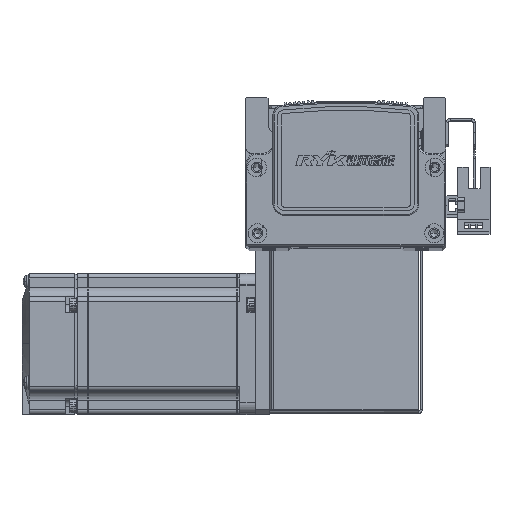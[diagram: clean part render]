
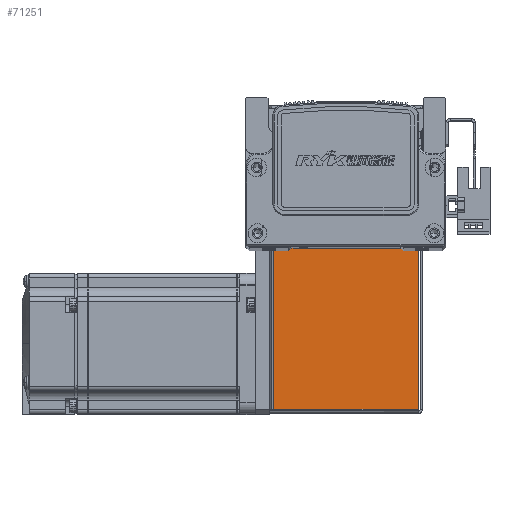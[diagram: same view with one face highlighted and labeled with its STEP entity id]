
A CAD part, top view. The second image highlights one B-rep face of the part: STEP entity #71251.
In plain terms, the highlighted planar face has unit normal (0, 0, 1) as drawn and (0, 0, -1) by its records, which use the part's own axes.
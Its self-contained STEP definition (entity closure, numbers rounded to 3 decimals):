
#4099 = AXIS2_PLACEMENT_3D ( 'NONE', #12643, #12669, #12672 ) ;
#9151 = LINE ( 'NONE', #22250, #9178 ) ;
#9178 = VECTOR ( 'NONE', #22254, 1000. ) ;
#12643 = CARTESIAN_POINT ( 'NONE',  ( 0., 0., -35. ) ) ;
#12644 = PLANE ( 'NONE',  #4099 ) ;
#12669 = DIRECTION ( 'NONE',  ( 0., 0., 1. ) ) ;
#12672 = DIRECTION ( 'NONE',  ( 0., -1., 0. ) ) ;
#22250 = CARTESIAN_POINT ( 'NONE',  ( 32.5, 0.737, -35. ) ) ;
#22254 = DIRECTION ( 'NONE',  ( 1., 0., 0. ) ) ;
#22373 = DIRECTION ( 'NONE',  ( 1., 0., 0. ) ) ;
#22374 = DIRECTION ( 'NONE',  ( 0., 1., 0. ) ) ;
#22376 = CARTESIAN_POINT ( 'NONE',  ( 30.763, 72.5, -35. ) ) ;
#22381 = DIRECTION ( 'NONE',  ( 0., -1., 0. ) ) ;
#22392 = CARTESIAN_POINT ( 'NONE',  ( 0., 72.5, -35. ) ) ;
#22394 = CARTESIAN_POINT ( 'NONE',  ( -30.793, 0., -35. ) ) ;
#34135 = VERTEX_POINT ( 'NONE', #59388 ) ;
#36112 = ORIENTED_EDGE ( 'NONE', *, *, #63571, .T. ) ;
#36130 = ORIENTED_EDGE ( 'NONE', *, *, #63562, .T. ) ;
#36174 = ORIENTED_EDGE ( 'NONE', *, *, #63569, .T. ) ;
#36296 = ORIENTED_EDGE ( 'NONE', *, *, #63511, .F. ) ;
#40932 = VERTEX_POINT ( 'NONE', #74477 ) ;
#40960 = VERTEX_POINT ( 'NONE', #74562 ) ;
#40964 = VERTEX_POINT ( 'NONE', #74578 ) ;
#51097 = FACE_OUTER_BOUND ( 'NONE', #76290, .T. ) ;
#59388 = CARTESIAN_POINT ( 'NONE',  ( -30.793, 0.737, -35. ) ) ;
#63511 = EDGE_CURVE ( 'NONE', #34135, #40932, #9151, .T. ) ;
#63562 = EDGE_CURVE ( 'NONE', #40960, #40932, #78595, .T. ) ;
#63569 = EDGE_CURVE ( 'NONE', #40964, #40960, #78577, .T. ) ;
#63571 = EDGE_CURVE ( 'NONE', #34135, #40964, #78585, .T. ) ;
#71251 = ADVANCED_FACE ( 'NONE', ( #51097 ), #12644, .F. ) ;
#74477 = CARTESIAN_POINT ( 'NONE',  ( 30.763, 0.737, -35. ) ) ;
#74562 = CARTESIAN_POINT ( 'NONE',  ( 30.763, 72.5, -35. ) ) ;
#74578 = CARTESIAN_POINT ( 'NONE',  ( -30.793, 72.5, -35. ) ) ;
#76290 = EDGE_LOOP ( 'NONE', ( #36130, #36296, #36112, #36174 ) ) ;
#78577 = LINE ( 'NONE', #22392, #78582 ) ;
#78582 = VECTOR ( 'NONE', #22373, 1000. ) ;
#78585 = LINE ( 'NONE', #22394, #78614 ) ;
#78595 = LINE ( 'NONE', #22376, #78610 ) ;
#78610 = VECTOR ( 'NONE', #22381, 1000. ) ;
#78614 = VECTOR ( 'NONE', #22374, 1000. ) ;
